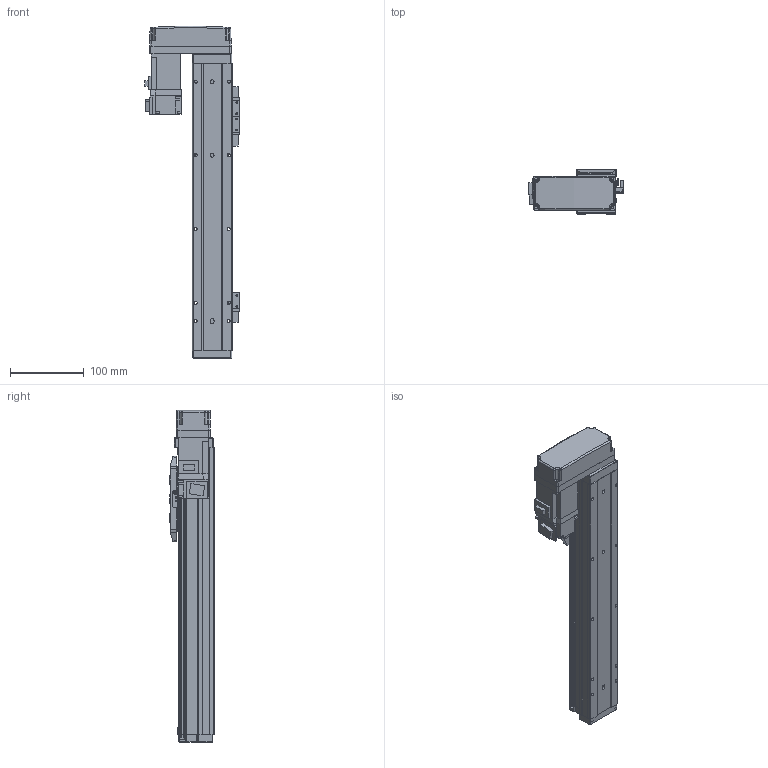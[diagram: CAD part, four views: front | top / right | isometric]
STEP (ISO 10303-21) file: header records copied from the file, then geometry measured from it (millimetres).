
FILE_DESCRIPTION (( 'STEP AP214' ), '1' );
FILE_NAME ('N_GRH5-250-BR-M10.step', '2025-03-14T10:57:53', ( '' ), ( '' ), 'SwSTEP 2.0', 'SolidWorks 2016', '' );
FILE_SCHEMA (( 'AUTOMOTIVE_DESIGN' ));
Length unit declared in the file: millimetre
Products named in the file (5): N_GRH5-GY-004^N_GRH5-250-BR-M10; HF-KP13_100W_Motor^N_GRH5-250-BR-M10; N_GRH5-BL-008^N_GRH5-250-BR-M10; N_GRH5-250-BR-M10; N_GRH5-GY-011^N_GRH5-250-BR-M10
Assembly tree (4 placements, depth 2):
  N_GRH5-250-BR-M10
    N_GRH5-GY-011^N_GRH5-250-BR-M10
    N_GRH5-GY-004^N_GRH5-250-BR-M10
    HF-KP13_100W_Motor^N_GRH5-250-BR-M10
    N_GRH5-BL-008^N_GRH5-250-BR-M10
Bounding box: 128.85 x 60 x 450.5 mm (x, y, z)
Volume: 1044559.7 mm3; surface area: 249662.2 mm2
Topology: 4 solids, 5 shells, 934 faces, 2384 edges, 1509 vertices
Faces by surface type: plane 547, cylinder 312, cone 50, bspline 15, sphere 10
Entity records: 35587 total; most frequent: CARTESIAN_POINT 5593, DIRECTION 4805, ORIENTED_EDGE 4704, EDGE_CURVE 2352, VECTOR 1635, LINE 1635, AXIS2_PLACEMENT_3D 1585, VERTEX_POINT 1507
